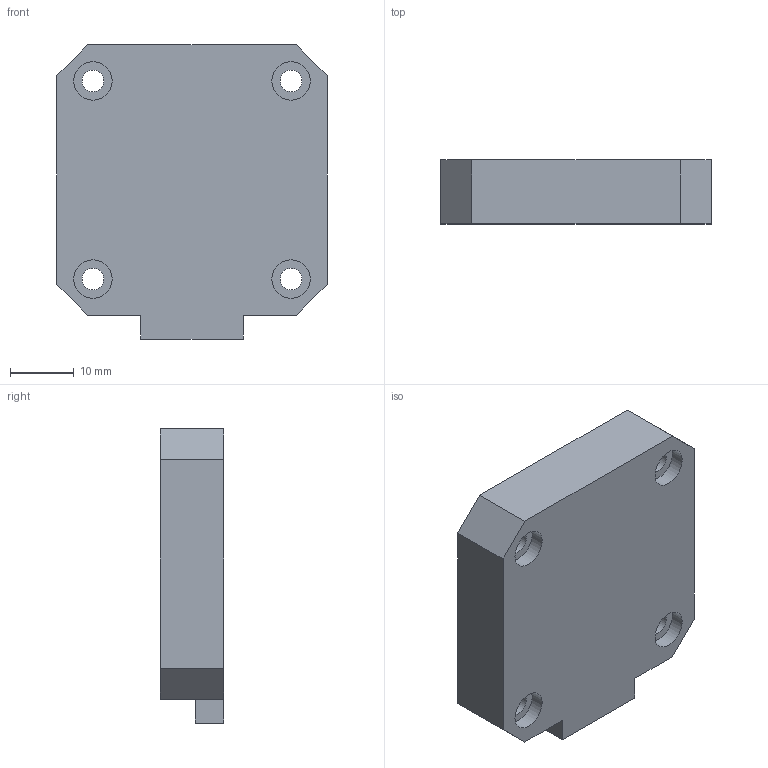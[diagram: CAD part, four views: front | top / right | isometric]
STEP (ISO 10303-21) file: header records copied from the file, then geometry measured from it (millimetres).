
FILE_DESCRIPTION(/* description */ ('STEP AP242 Edition 2','CAx-IF Rec.Pracs.---Representation and Presentation of Product Manufacturing Information (PMI)---4.0---2014-10-13','CAx-IF Rec.Pracs.---3D Tessellated Geometry---0.4---2014-09-14','2;1','CAx-IF Rec.Pracs.---User Defined Attributes---1.5---2016-08-15'),/* implementation_level */ '2;1');
FILE_NAME(/* name */ 'Assembly 1 - Body3 (5)',/* time_stamp */ '2026-09-25T20:07:14Z',/* author */ (''),/* organization */ (''),/* preprocessor_version */ 'ST-DEVELOPER v20',/* originating_system */ 'ONSHAPE BY PTC INC, 1.221',/* authorisation */ ' ');
FILE_SCHEMA (('AP242_MANAGED_MODEL_BASED_3D_ENGINEERING_MIM_LF { 1 0 10303 442 3 1 4 }'));
Length unit declared in the file: metre
Products named in the file (1): Body3
Bounding box: 42.3 x 10 x 46.05 mm (x, y, z)
Volume: 16285.5 mm3; surface area: 5754.8 mm2
Topology: 1 solids, 1 shells, 30 faces, 70 edges, 46 vertices
Faces by surface type: plane 22, cylinder 8
Full cylindrical faces by diameter (mm): 3.4 x4, 6 x4
Entity records: 852 total; most frequent: DIRECTION 140, CARTESIAN_POINT 139, ORIENTED_EDGE 124, EDGE_CURVE 62, EDGE_LOOP 50, FACE_BOUND 50, AXIS2_PLACEMENT_3D 47, VERTEX_POINT 46
